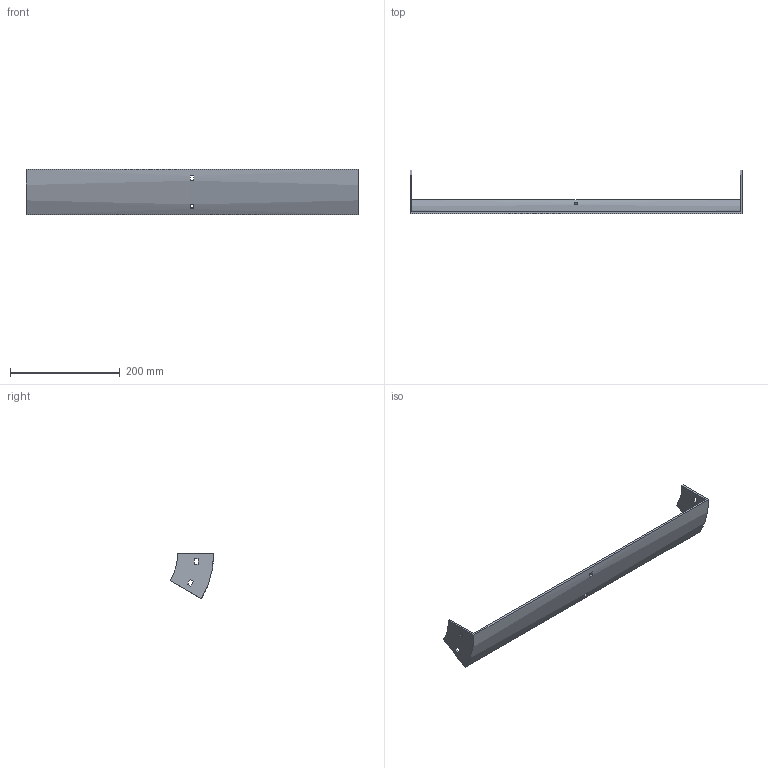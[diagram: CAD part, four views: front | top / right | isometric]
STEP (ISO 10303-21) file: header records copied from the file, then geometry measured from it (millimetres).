
FILE_DESCRIPTION (( 'STEP AP214' ), '1' );
FILE_NAME ('32B1H600.step', '2025-02-21T09:44:30', ( '' ), ( '' ), 'SwSTEP 2.0', 'SolidWorks 2023', '' );
FILE_SCHEMA (( 'AUTOMOTIVE_DESIGN' ));
Length unit declared in the file: millimetre
Products named in the file (1): 32B1H600
Bounding box: 604 x 78.9 x 82.75 mm (x, y, z)
Volume: 209629.9 mm3; surface area: 125951.6 mm2
Topology: 1 solids, 1 shells, 34 faces, 96 edges, 64 vertices
Faces by surface type: plane 30, cylinder 4
Entity records: 1143 total; most frequent: CARTESIAN_POINT 195, ORIENTED_EDGE 192, DIRECTION 182, EDGE_CURVE 96, LINE 80, VECTOR 80, VERTEX_POINT 64, AXIS2_PLACEMENT_3D 51
